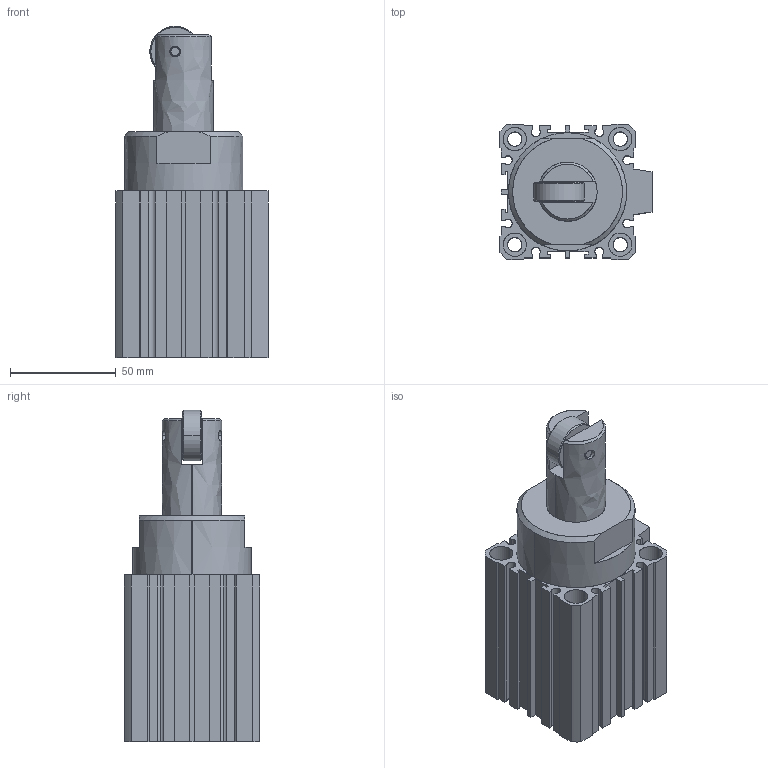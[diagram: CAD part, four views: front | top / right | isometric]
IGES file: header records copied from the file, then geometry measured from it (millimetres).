
Start section: SolidWorks IGES file using analytic representation for surfaces
Global section: file name: C:\Documents and Settings\admin\Bureau\stage de yaya\Plan Philippe Pince\PINCE\VUSB\pièces en 3D\VUSB STEP\ELOC-3DWG\ELOC-50-25-TIGE SORTIE.dwg.IGS; native system: SolidWorks 2007; preprocessor: SolidWorks 2007; author: admin; date: 080331.092225; units: millimetre
Bounding box: 72 x 64 x 157 mm (x, y, z)
Surface area: 72675.9 mm2 (no closed solid volume)
Topology: 0 solids, 0 shells, 889 faces, 11085 edges, 11125 vertices
Faces by surface type: bspline 809, revolution 80
